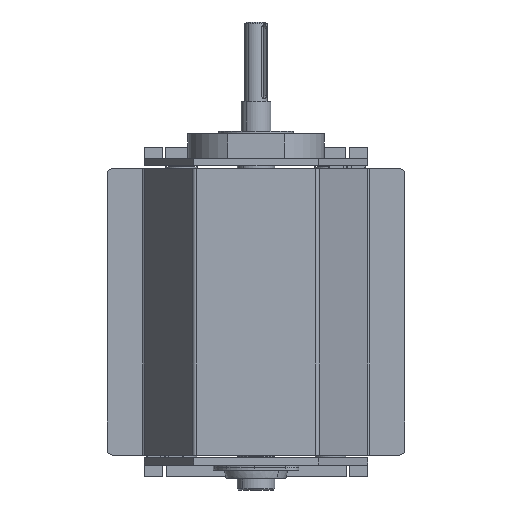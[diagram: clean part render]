
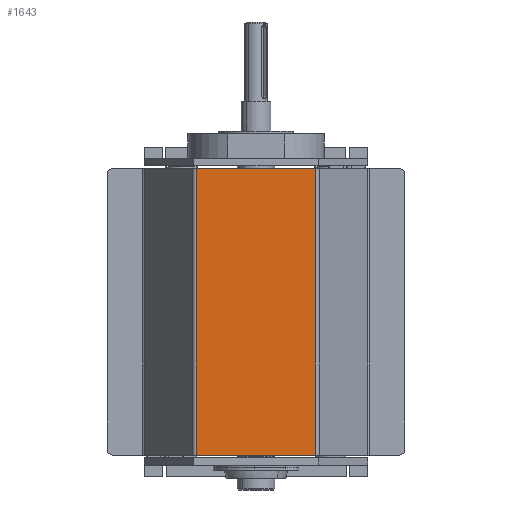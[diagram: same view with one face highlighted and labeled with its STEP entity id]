
A CAD part, front view. The second image highlights one B-rep face of the part: STEP entity #1643.
In plain terms, the highlighted planar face has unit normal (0, -1, 0).
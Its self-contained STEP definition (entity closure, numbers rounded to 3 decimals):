
#312 = DIRECTION ( 'NONE',  ( 0., 0., -1. ) ) ;
#329 = CARTESIAN_POINT ( 'NONE',  ( -48.268, 0., 404.779 ) ) ;
#335 = CARTESIAN_POINT ( 'NONE',  ( -50., 0., 115.5 ) ) ;
#352 = DIRECTION ( 'NONE',  ( -1., 0., 0. ) ) ;
#1201 = AXIS2_PLACEMENT_3D ( 'NONE', #21899, #21908, #21910 ) ;
#1643 = ADVANCED_FACE ( 'NONE', ( #10597 ), #21905, .F. ) ;
#3878 = CARTESIAN_POINT ( 'NONE',  ( -48.268, 0., -115.5 ) ) ;
#4221 = CARTESIAN_POINT ( 'NONE',  ( 48.268, 0., 115.5 ) ) ;
#4394 = CARTESIAN_POINT ( 'NONE',  ( -50., 0., -115.5 ) ) ;
#4395 = DIRECTION ( 'NONE',  ( 1., 0., 0. ) ) ;
#4747 = DIRECTION ( 'NONE',  ( 0., 0., -1. ) ) ;
#4749 = CARTESIAN_POINT ( 'NONE',  ( 48.268, 0., 404.779 ) ) ;
#9068 = VECTOR ( 'NONE', #4395, 1000. ) ;
#9240 = LINE ( 'NONE', #4394, #9068 ) ;
#10597 = FACE_OUTER_BOUND ( 'NONE', #13859, .T. ) ;
#12538 = LINE ( 'NONE', #4749, #12542 ) ;
#12542 = VECTOR ( 'NONE', #4747, 1000. ) ;
#12681 = LINE ( 'NONE', #335, #12691 ) ;
#12683 = LINE ( 'NONE', #329, #12685 ) ;
#12685 = VECTOR ( 'NONE', #312, 1000. ) ;
#12691 = VECTOR ( 'NONE', #352, 1000. ) ;
#12973 = VERTEX_POINT ( 'NONE', #17958 ) ;
#13049 = VERTEX_POINT ( 'NONE', #18000 ) ;
#13117 = VERTEX_POINT ( 'NONE', #3878 ) ;
#13480 = VERTEX_POINT ( 'NONE', #4221 ) ;
#13859 = EDGE_LOOP ( 'NONE', ( #18549, #18550, #18551, #18552 ) ) ;
#17958 = CARTESIAN_POINT ( 'NONE',  ( -48.268, 0., 115.5 ) ) ;
#18000 = CARTESIAN_POINT ( 'NONE',  ( 48.268, 0., -115.5 ) ) ;
#18549 = ORIENTED_EDGE ( 'NONE', *, *, #20441, .T. ) ;
#18550 = ORIENTED_EDGE ( 'NONE', *, *, #20438, .T. ) ;
#18551 = ORIENTED_EDGE ( 'NONE', *, *, #18895, .T. ) ;
#18552 = ORIENTED_EDGE ( 'NONE', *, *, #20355, .F. ) ;
#18895 = EDGE_CURVE ( 'NONE', #13117, #13049, #9240, .T. ) ;
#20355 = EDGE_CURVE ( 'NONE', #13480, #13049, #12538, .T. ) ;
#20438 = EDGE_CURVE ( 'NONE', #12973, #13117, #12683, .T. ) ;
#20441 = EDGE_CURVE ( 'NONE', #13480, #12973, #12681, .T. ) ;
#21899 = CARTESIAN_POINT ( 'NONE',  ( -50., 0., 404.779 ) ) ;
#21905 = PLANE ( 'NONE',  #1201 ) ;
#21908 = DIRECTION ( 'NONE',  ( 0., 1., 0. ) ) ;
#21910 = DIRECTION ( 'NONE',  ( -1., 0., 0. ) ) ;
